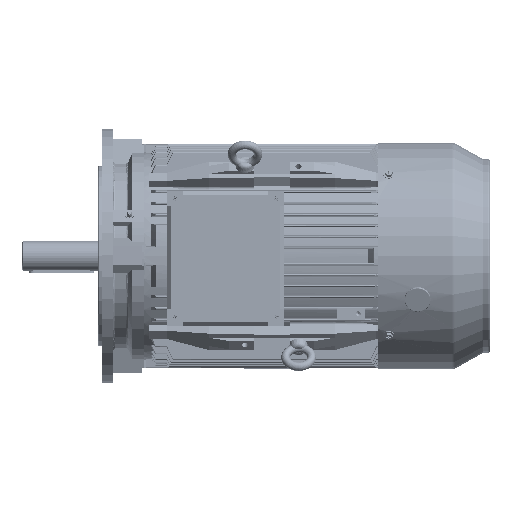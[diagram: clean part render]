
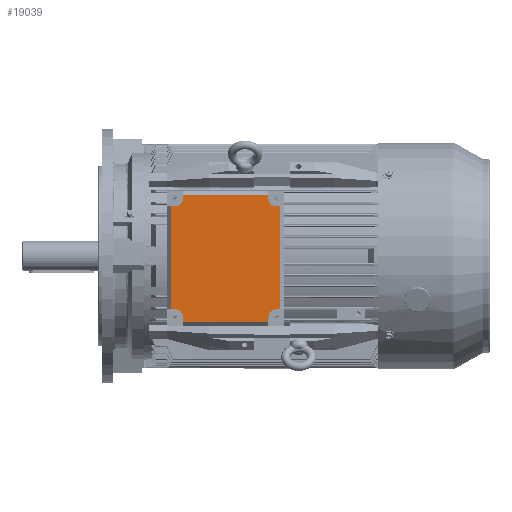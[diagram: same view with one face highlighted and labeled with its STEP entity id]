
A CAD part, top view. The second image highlights one B-rep face of the part: STEP entity #19039.
In plain terms, the highlighted planar face has unit normal (0, 0, 1).
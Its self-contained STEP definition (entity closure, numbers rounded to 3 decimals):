
#5465 = EDGE_CURVE ( 'NONE', #185821, #8716, #234782, .T. ) ;
#8577 = VECTOR ( 'NONE', #131929, 1000. ) ;
#8716 = VERTEX_POINT ( 'NONE', #139300 ) ;
#11356 = LINE ( 'NONE', #156653, #95135 ) ;
#13244 = ORIENTED_EDGE ( 'NONE', *, *, #230401, .F. ) ;
#18352 = CIRCLE ( 'NONE', #190248, 11. ) ;
#19039 = ADVANCED_FACE ( 'NONE', ( #124148 ), #144340, .T. ) ;
#23702 = CARTESIAN_POINT ( 'NONE',  ( 94.157, 90.864, 241.65 ) ) ;
#26223 = VERTEX_POINT ( 'NONE', #196246 ) ;
#30416 = CARTESIAN_POINT ( 'NONE',  ( -39.843, 112.864, 241.65 ) ) ;
#30448 = CARTESIAN_POINT ( 'NONE',  ( 89.157, 101.864, 241.65 ) ) ;
#31904 = VECTOR ( 'NONE', #130141, 1000. ) ;
#34039 = DIRECTION ( 'NONE',  ( 0., 1., 0. ) ) ;
#35152 = VECTOR ( 'NONE', #72143, 1000. ) ;
#44162 = ORIENTED_EDGE ( 'NONE', *, *, #127294, .F. ) ;
#44400 = CARTESIAN_POINT ( 'NONE',  ( -39.843, 106.864, 241.65 ) ) ;
#51258 = CIRCLE ( 'NONE', #77331, 11. ) ;
#52594 = CARTESIAN_POINT ( 'NONE',  ( 78.157, 101.864, 241.65 ) ) ;
#54486 = DIRECTION ( 'NONE',  ( 0., 0., 1. ) ) ;
#55795 = CARTESIAN_POINT ( 'NONE',  ( 89.157, -62.136, 241.65 ) ) ;
#56562 = ORIENTED_EDGE ( 'NONE', *, *, #108634, .F. ) ;
#57189 = VERTEX_POINT ( 'NONE', #232226 ) ;
#61274 = EDGE_CURVE ( 'NONE', #178586, #103365, #190305, .T. ) ;
#63836 = ORIENTED_EDGE ( 'NONE', *, *, #139962, .T. ) ;
#64971 = DIRECTION ( 'NONE',  ( 0., 1., 0. ) ) ;
#66674 = VERTEX_POINT ( 'NONE', #23702 ) ;
#68102 = VECTOR ( 'NONE', #118389, 1000. ) ;
#70729 = LINE ( 'NONE', #152748, #149971 ) ;
#72143 = DIRECTION ( 'NONE',  ( 0., 1., 0. ) ) ;
#77331 = AXIS2_PLACEMENT_3D ( 'NONE', #55795, #54486, #221175 ) ;
#82530 = ORIENTED_EDGE ( 'NONE', *, *, #5465, .F. ) ;
#84478 = CARTESIAN_POINT ( 'NONE',  ( 89.157, 90.864, 241.65 ) ) ;
#90900 = DIRECTION ( 'NONE',  ( -1., 0., 0. ) ) ;
#90961 = EDGE_CURVE ( 'NONE', #137506, #178586, #70729, .T. ) ;
#94345 = DIRECTION ( 'NONE',  ( 1., 0., 0. ) ) ;
#94455 = VECTOR ( 'NONE', #90900, 1000. ) ;
#95135 = VECTOR ( 'NONE', #198307, 1000. ) ;
#97117 = ORIENTED_EDGE ( 'NONE', *, *, #191537, .T. ) ;
#97517 = EDGE_CURVE ( 'NONE', #26223, #185821, #227087, .T. ) ;
#98880 = EDGE_CURVE ( 'NONE', #122620, #160342, #51258, .T. ) ;
#99103 = EDGE_CURVE ( 'NONE', #160342, #155799, #212644, .T. ) ;
#100369 = CARTESIAN_POINT ( 'NONE',  ( -55.843, -51.136, 241.65 ) ) ;
#101380 = EDGE_CURVE ( 'NONE', #103365, #66674, #250485, .T. ) ;
#103365 = VERTEX_POINT ( 'NONE', #84478 ) ;
#108634 = EDGE_CURVE ( 'NONE', #141133, #26223, #243442, .T. ) ;
#109733 = CARTESIAN_POINT ( 'NONE',  ( -61.843, -51.136, 241.65 ) ) ;
#109815 = LINE ( 'NONE', #30416, #35152 ) ;
#116945 = ORIENTED_EDGE ( 'NONE', *, *, #244931, .F. ) ;
#118389 = DIRECTION ( 'NONE',  ( 1., 0., 0. ) ) ;
#122354 = CARTESIAN_POINT ( 'NONE',  ( -61.843, 90.864, 241.65 ) ) ;
#122620 = VERTEX_POINT ( 'NONE', #147506 ) ;
#124066 = CARTESIAN_POINT ( 'NONE',  ( -39.843, 101.864, 241.65 ) ) ;
#124148 = FACE_OUTER_BOUND ( 'NONE', #236195, .T. ) ;
#127294 = EDGE_CURVE ( 'NONE', #264680, #201789, #18352, .T. ) ;
#128668 = CARTESIAN_POINT ( 'NONE',  ( -50.843, -51.136, 241.65 ) ) ;
#129105 = VECTOR ( 'NONE', #170258, 1000. ) ;
#129923 = LINE ( 'NONE', #147430, #129105 ) ;
#130141 = DIRECTION ( 'NONE',  ( 1., 0., 0. ) ) ;
#131929 = DIRECTION ( 'NONE',  ( 0., -1., 0. ) ) ;
#132747 = ORIENTED_EDGE ( 'NONE', *, *, #97517, .F. ) ;
#134738 = ORIENTED_EDGE ( 'NONE', *, *, #98880, .F. ) ;
#137137 = EDGE_CURVE ( 'NONE', #238319, #66674, #11356, .T. ) ;
#137506 = VERTEX_POINT ( 'NONE', #199305 ) ;
#139300 = CARTESIAN_POINT ( 'NONE',  ( -55.843, -51.136, 241.65 ) ) ;
#139962 = EDGE_CURVE ( 'NONE', #141133, #155799, #193299, .T. ) ;
#141133 = VERTEX_POINT ( 'NONE', #255274 ) ;
#142593 = CARTESIAN_POINT ( 'NONE',  ( 94.157, -51.136, 241.65 ) ) ;
#144340 = PLANE ( 'NONE',  #243729 ) ;
#144709 = LINE ( 'NONE', #100369, #240323 ) ;
#147430 = CARTESIAN_POINT ( 'NONE',  ( 100.157, -51.136, 241.65 ) ) ;
#147506 = CARTESIAN_POINT ( 'NONE',  ( 89.157, -51.136, 241.65 ) ) ;
#149971 = VECTOR ( 'NONE', #198395, 1000. ) ;
#151559 = DIRECTION ( 'NONE',  ( 0., -1., 0. ) ) ;
#152109 = CARTESIAN_POINT ( 'NONE',  ( 78.157, -74.136, 241.65 ) ) ;
#152748 = CARTESIAN_POINT ( 'NONE',  ( 78.157, 112.864, 241.65 ) ) ;
#153312 = LINE ( 'NONE', #44400, #173006 ) ;
#154208 = DIRECTION ( 'NONE',  ( 0., 0., 1. ) ) ;
#155799 = VERTEX_POINT ( 'NONE', #226399 ) ;
#156653 = CARTESIAN_POINT ( 'NONE',  ( 94.157, 90.864, 241.65 ) ) ;
#160342 = VERTEX_POINT ( 'NONE', #225555 ) ;
#164541 = DIRECTION ( 'NONE',  ( 0., 0., 1. ) ) ;
#169173 = CARTESIAN_POINT ( 'NONE',  ( 78.157, -68.136, 241.65 ) ) ;
#170258 = DIRECTION ( 'NONE',  ( -1., 0., 0. ) ) ;
#171271 = AXIS2_PLACEMENT_3D ( 'NONE', #195670, #258938, #231079 ) ;
#172397 = CARTESIAN_POINT ( 'NONE',  ( 100.157, 90.864, 241.65 ) ) ;
#173006 = VECTOR ( 'NONE', #196306, 1000. ) ;
#176998 = VECTOR ( 'NONE', #94345, 1000. ) ;
#177573 = ORIENTED_EDGE ( 'NONE', *, *, #99103, .F. ) ;
#178586 = VERTEX_POINT ( 'NONE', #52594 ) ;
#184436 = ORIENTED_EDGE ( 'NONE', *, *, #101380, .F. ) ;
#185821 = VERTEX_POINT ( 'NONE', #128668 ) ;
#186913 = EDGE_CURVE ( 'NONE', #57189, #264680, #261034, .T. ) ;
#188826 = ORIENTED_EDGE ( 'NONE', *, *, #210260, .T. ) ;
#190248 = AXIS2_PLACEMENT_3D ( 'NONE', #223708, #164541, #64971 ) ;
#190305 = CIRCLE ( 'NONE', #194552, 11. ) ;
#191537 = EDGE_CURVE ( 'NONE', #57189, #8716, #144709, .T. ) ;
#192667 = ORIENTED_EDGE ( 'NONE', *, *, #186913, .F. ) ;
#193299 = LINE ( 'NONE', #169173, #31904 ) ;
#194552 = AXIS2_PLACEMENT_3D ( 'NONE', #30448, #154208, #151559 ) ;
#195670 = CARTESIAN_POINT ( 'NONE',  ( -50.843, -62.136, 241.65 ) ) ;
#196246 = CARTESIAN_POINT ( 'NONE',  ( -39.843, -62.136, 241.65 ) ) ;
#196306 = DIRECTION ( 'NONE',  ( -1., 0., 0. ) ) ;
#196820 = CARTESIAN_POINT ( 'NONE',  ( -39.843, -74.136, 241.65 ) ) ;
#198307 = DIRECTION ( 'NONE',  ( 0., 1., 0. ) ) ;
#198395 = DIRECTION ( 'NONE',  ( 0., -1., 0. ) ) ;
#199003 = VERTEX_POINT ( 'NONE', #211878 ) ;
#199305 = CARTESIAN_POINT ( 'NONE',  ( 78.157, 106.864, 241.65 ) ) ;
#201789 = VERTEX_POINT ( 'NONE', #124066 ) ;
#207048 = ORIENTED_EDGE ( 'NONE', *, *, #61274, .F. ) ;
#208575 = VECTOR ( 'NONE', #34039, 1000. ) ;
#210260 = EDGE_CURVE ( 'NONE', #137506, #199003, #153312, .T. ) ;
#211878 = CARTESIAN_POINT ( 'NONE',  ( -39.843, 106.864, 241.65 ) ) ;
#212644 = LINE ( 'NONE', #152109, #8577 ) ;
#219704 = ORIENTED_EDGE ( 'NONE', *, *, #90961, .F. ) ;
#221175 = DIRECTION ( 'NONE',  ( 0., 1., 0. ) ) ;
#223708 = CARTESIAN_POINT ( 'NONE',  ( -50.843, 101.864, 241.65 ) ) ;
#225555 = CARTESIAN_POINT ( 'NONE',  ( 78.157, -62.136, 241.65 ) ) ;
#226343 = DIRECTION ( 'NONE',  ( 0., -1., 0. ) ) ;
#226399 = CARTESIAN_POINT ( 'NONE',  ( 78.157, -68.136, 241.65 ) ) ;
#226726 = DIRECTION ( 'NONE',  ( 0., -1., 0. ) ) ;
#227087 = CIRCLE ( 'NONE', #171271, 11. ) ;
#230401 = EDGE_CURVE ( 'NONE', #238319, #122620, #129923, .T. ) ;
#231079 = DIRECTION ( 'NONE',  ( 0., -1., 0. ) ) ;
#232226 = CARTESIAN_POINT ( 'NONE',  ( -55.843, 90.864, 241.65 ) ) ;
#234782 = LINE ( 'NONE', #109733, #94455 ) ;
#236195 = EDGE_LOOP ( 'NONE', ( #13244, #242164, #184436, #207048, #219704, #188826, #116945, #44162, #192667, #97117, #82530, #132747, #56562, #63836, #177573, #134738 ) ) ;
#238319 = VERTEX_POINT ( 'NONE', #142593 ) ;
#240323 = VECTOR ( 'NONE', #226726, 1000. ) ;
#242164 = ORIENTED_EDGE ( 'NONE', *, *, #137137, .T. ) ;
#243442 = LINE ( 'NONE', #196820, #208575 ) ;
#243729 = AXIS2_PLACEMENT_3D ( 'NONE', #247900, #250588, #226343 ) ;
#244931 = EDGE_CURVE ( 'NONE', #201789, #199003, #109815, .T. ) ;
#247900 = CARTESIAN_POINT ( 'NONE',  ( -61.843, 112.864, 241.65 ) ) ;
#250485 = LINE ( 'NONE', #172397, #176998 ) ;
#250588 = DIRECTION ( 'NONE',  ( 0., 0., 1. ) ) ;
#255274 = CARTESIAN_POINT ( 'NONE',  ( -39.843, -68.136, 241.65 ) ) ;
#258558 = CARTESIAN_POINT ( 'NONE',  ( -50.843, 90.864, 241.65 ) ) ;
#258938 = DIRECTION ( 'NONE',  ( 0., 0., 1. ) ) ;
#261034 = LINE ( 'NONE', #122354, #68102 ) ;
#264680 = VERTEX_POINT ( 'NONE', #258558 ) ;
